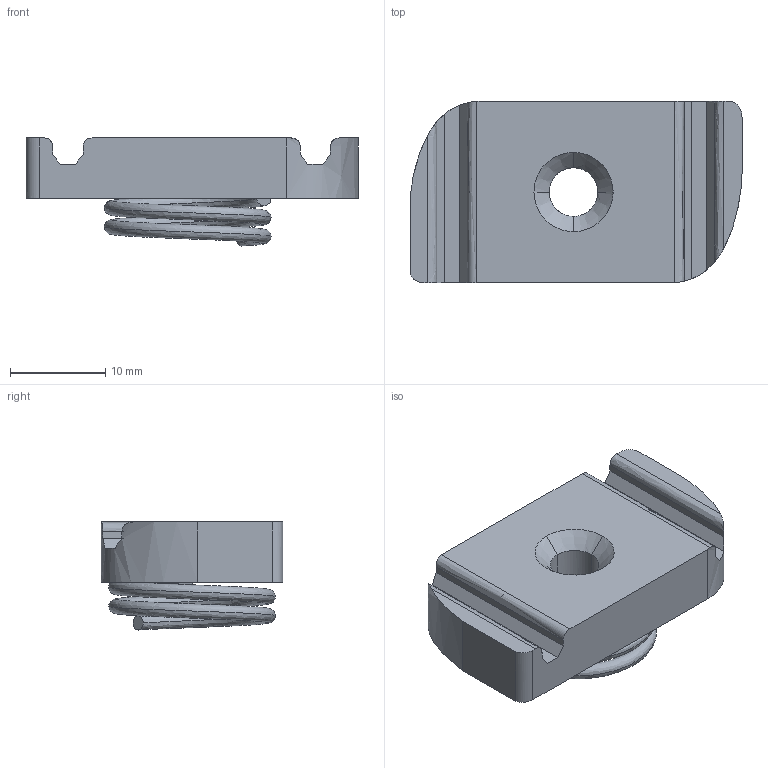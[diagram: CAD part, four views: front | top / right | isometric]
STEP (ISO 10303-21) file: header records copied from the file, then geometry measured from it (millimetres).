
FILE_DESCRIPTION(('TurboCAD Mac Pro'),'Build 980');
FILE_NAME('P4006-1024.stp',' ',(''),(''),'ACIS Interop','IMSI','TurboCAD Mac Pro BY IMSI, INCORPORATED');
FILE_SCHEMA(('automotive_design'));
Length unit declared in the file: inch
Products named in the file (1): 1
Bounding box: 34.84 x 19.05 x 11.35 mm (x, y, z)
Volume: 3714.7 mm3; surface area: 2488.3 mm2
Topology: 1 solids, 1 shells, 38 faces, 99 edges, 64 vertices
Faces by surface type: plane 20, bspline 18
Entity records: 3374 total; most frequent: CARTESIAN_POINT 2254, ORIENTED_EDGE 198, EDGE_CURVE 99, DIRECTION 97, VERTEX_POINT 64, LINE 49, VECTOR 49, B_SPLINE_CURVE_WITH_KNOTS 47
